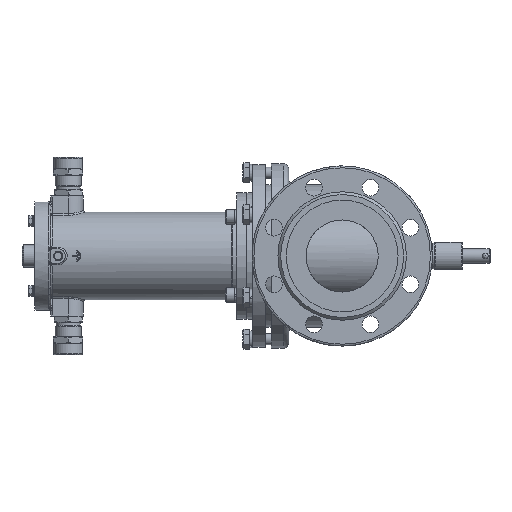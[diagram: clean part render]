
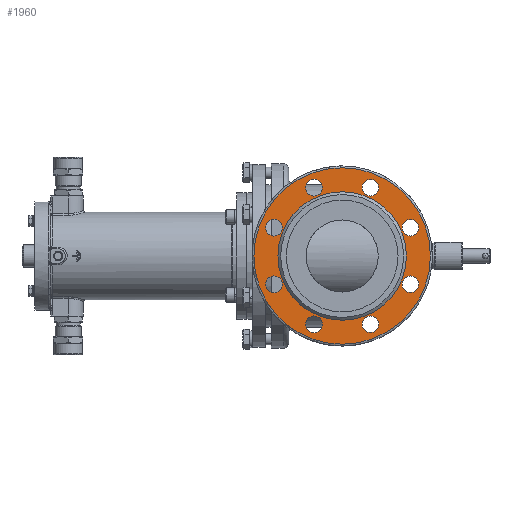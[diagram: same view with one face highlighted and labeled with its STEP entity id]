
A CAD part, left-side view. The second image highlights one B-rep face of the part: STEP entity #1960.
In plain terms, the highlighted planar face has unit normal (-1, 0, 0).
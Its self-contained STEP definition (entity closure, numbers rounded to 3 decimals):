
#1960=ADVANCED_FACE('',(#22006,#22008,#22010,#22012,#22014,#22016,#22018,#22020,
#22022,#22024),#22026,.T.);
#22006=FACE_BOUND('',#22007,.T.);
#22007=EDGE_LOOP('',(#33552));
#22008=FACE_BOUND('',#22009,.T.);
#22009=EDGE_LOOP('',(#33553));
#22010=FACE_BOUND('',#22011,.T.);
#22011=EDGE_LOOP('',(#33554));
#22012=FACE_BOUND('',#22013,.T.);
#22013=EDGE_LOOP('',(#33555));
#22014=FACE_BOUND('',#22015,.T.);
#22015=EDGE_LOOP('',(#33556));
#22016=FACE_BOUND('',#22017,.T.);
#22017=EDGE_LOOP('',(#33557));
#22018=FACE_BOUND('',#22019,.T.);
#22019=EDGE_LOOP('',(#33558));
#22020=FACE_BOUND('',#22021,.T.);
#22021=EDGE_LOOP('',(#33559));
#22022=FACE_BOUND('',#22023,.T.);
#22023=EDGE_LOOP('',(#33560));
#22024=FACE_OUTER_BOUND('',#22025,.T.);
#22025=EDGE_LOOP('',(#33561));
#22026=PLANE('',#22027);
#22027=AXIS2_PLACEMENT_3D('',#22028,#22029,#22030);
#22028=CARTESIAN_POINT('',(-151.,0.,0.));
#22029=DIRECTION('',(-1.,0.,0.));
#22030=DIRECTION('',(0.,1.,0.));
#33552=ORIENTED_EDGE('',*,*,#41515,.T.);
#33553=ORIENTED_EDGE('',*,*,#41513,.T.);
#33554=ORIENTED_EDGE('',*,*,#41511,.T.);
#33555=ORIENTED_EDGE('',*,*,#41509,.T.);
#33556=ORIENTED_EDGE('',*,*,#41507,.T.);
#33557=ORIENTED_EDGE('',*,*,#41505,.T.);
#33558=ORIENTED_EDGE('',*,*,#41503,.T.);
#33559=ORIENTED_EDGE('',*,*,#41501,.T.);
#33560=ORIENTED_EDGE('',*,*,#41540,.F.);
#33561=ORIENTED_EDGE('',*,*,#41541,.T.);
#41501=EDGE_CURVE('',#50003,#50003,#50005,.T.);
#41503=EDGE_CURVE('',#50006,#50006,#50008,.T.);
#41505=EDGE_CURVE('',#50009,#50009,#50011,.T.);
#41507=EDGE_CURVE('',#50012,#50012,#50014,.T.);
#41509=EDGE_CURVE('',#50015,#50015,#50017,.T.);
#41511=EDGE_CURVE('',#50018,#50018,#50020,.T.);
#41513=EDGE_CURVE('',#50021,#50021,#50023,.T.);
#41515=EDGE_CURVE('',#50024,#50024,#50026,.T.);
#41540=EDGE_CURVE('',#50065,#50065,#50066,.T.);
#41541=EDGE_CURVE('',#50067,#50067,#50068,.T.);
#50003=VERTEX_POINT('',#80480);
#50005=CIRCLE('',#80484,9.);
#50006=VERTEX_POINT('',#80488);
#50008=CIRCLE('',#80492,9.);
#50009=VERTEX_POINT('',#80496);
#50011=CIRCLE('',#80500,9.);
#50012=VERTEX_POINT('',#80504);
#50014=CIRCLE('',#80508,9.);
#50015=VERTEX_POINT('',#80512);
#50017=CIRCLE('',#80516,9.);
#50018=VERTEX_POINT('',#80520);
#50020=CIRCLE('',#80524,9.);
#50021=VERTEX_POINT('',#80528);
#50023=CIRCLE('',#80532,9.);
#50024=VERTEX_POINT('',#80536);
#50026=CIRCLE('',#80540,9.);
#50065=VERTEX_POINT('',#80845);
#50066=CIRCLE('',#80846,69.5);
#50067=VERTEX_POINT('',#80850);
#50068=CIRCLE('',#80851,95.5);
#80480=CARTESIAN_POINT('',(-151.,30.615,64.91));
#80484=AXIS2_PLACEMENT_3D('',#80485,#80486,#80487);
#80485=CARTESIAN_POINT('',(-151.,30.615,73.91));
#80486=DIRECTION('',(1.,0.,0.));
#80487=DIRECTION('',(0.,-1.,0.));
#80488=CARTESIAN_POINT('',(-151.,30.615,-82.91));
#80492=AXIS2_PLACEMENT_3D('',#80493,#80494,#80495);
#80493=CARTESIAN_POINT('',(-151.,30.615,-73.91));
#80494=DIRECTION('',(1.,0.,0.));
#80495=DIRECTION('',(0.,-1.,0.));
#80496=CARTESIAN_POINT('',(-151.,73.91,21.615));
#80500=AXIS2_PLACEMENT_3D('',#80501,#80502,#80503);
#80501=CARTESIAN_POINT('',(-151.,73.91,30.615));
#80502=DIRECTION('',(1.,0.,0.));
#80503=DIRECTION('',(0.,-1.,0.));
#80504=CARTESIAN_POINT('',(-151.,-30.615,-82.91));
#80508=AXIS2_PLACEMENT_3D('',#80509,#80510,#80511);
#80509=CARTESIAN_POINT('',(-151.,-30.615,-73.91));
#80510=DIRECTION('',(1.,0.,0.));
#80511=DIRECTION('',(0.,-1.,0.));
#80512=CARTESIAN_POINT('',(-151.,-73.91,21.615));
#80516=AXIS2_PLACEMENT_3D('',#80517,#80518,#80519);
#80517=CARTESIAN_POINT('',(-151.,-73.91,30.615));
#80518=DIRECTION('',(1.,0.,0.));
#80519=DIRECTION('',(0.,-1.,0.));
#80520=CARTESIAN_POINT('',(-151.,-30.615,64.91));
#80524=AXIS2_PLACEMENT_3D('',#80525,#80526,#80527);
#80525=CARTESIAN_POINT('',(-151.,-30.615,73.91));
#80526=DIRECTION('',(1.,0.,0.));
#80527=DIRECTION('',(0.,-1.,0.));
#80528=CARTESIAN_POINT('',(-151.,73.91,-39.615));
#80532=AXIS2_PLACEMENT_3D('',#80533,#80534,#80535);
#80533=CARTESIAN_POINT('',(-151.,73.91,-30.615));
#80534=DIRECTION('',(1.,0.,0.));
#80535=DIRECTION('',(0.,-1.,0.));
#80536=CARTESIAN_POINT('',(-151.,-73.91,-39.615));
#80540=AXIS2_PLACEMENT_3D('',#80541,#80542,#80543);
#80541=CARTESIAN_POINT('',(-151.,-73.91,-30.615));
#80542=DIRECTION('',(1.,0.,0.));
#80543=DIRECTION('',(0.,-1.,0.));
#80845=CARTESIAN_POINT('',(-151.,-69.5,0.));
#80846=AXIS2_PLACEMENT_3D('',#80847,#80848,#80849);
#80847=CARTESIAN_POINT('',(-151.,0.,0.));
#80848=DIRECTION('',(-1.,0.,0.));
#80849=DIRECTION('',(0.,1.,0.));
#80850=CARTESIAN_POINT('',(-151.,-95.5,0.));
#80851=AXIS2_PLACEMENT_3D('',#80852,#80853,#80854);
#80852=CARTESIAN_POINT('',(-151.,0.,0.));
#80853=DIRECTION('',(-1.,0.,0.));
#80854=DIRECTION('',(0.,1.,0.));
